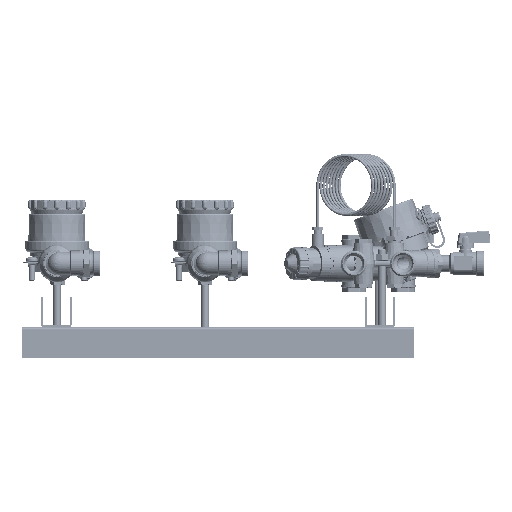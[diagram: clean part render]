
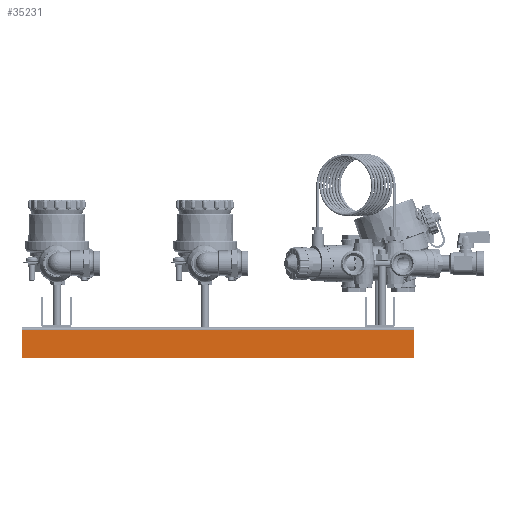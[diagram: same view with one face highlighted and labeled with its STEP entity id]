
A CAD part, front view. The second image highlights one B-rep face of the part: STEP entity #35231.
In plain terms, the highlighted planar face has unit normal (0, -1, 0) as drawn and (1, 0, 0) by its records, which use the part's own axes.
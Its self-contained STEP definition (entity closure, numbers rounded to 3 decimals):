
#35231=ADVANCED_FACE('',(#191200),#191202,.T.);
#191200=FACE_BOUND('',#191201,.T.);
#191201=EDGE_LOOP('',(#285194,#285195,#285196,#285197));
#191202=PLANE('',#191203);
#191203=AXIS2_PLACEMENT_3D('',#191204,#191205,#191206);
#191204=CARTESIAN_POINT('',(15.5,-400.,-2.5));
#191205=DIRECTION('',(1.,0.,0.));
#191206=DIRECTION('',(0.,0.,-1.));
#285194=ORIENTED_EDGE('',*,*,#333281,.T.);
#285195=ORIENTED_EDGE('',*,*,#333309,.T.);
#285196=ORIENTED_EDGE('',*,*,#333299,.F.);
#285197=ORIENTED_EDGE('',*,*,#333306,.F.);
#333281=EDGE_CURVE('',#393264,#393261,#393265,.T.);
#333299=EDGE_CURVE('',#393293,#393295,#393296,.T.);
#333306=EDGE_CURVE('',#393264,#393293,#393303,.T.);
#333309=EDGE_CURVE('',#393261,#393295,#393306,.T.);
#393261=VERTEX_POINT('',#656909);
#393264=VERTEX_POINT('',#656914);
#393265=LINE('',#656915,#656916);
#393293=VERTEX_POINT('',#656984);
#393295=VERTEX_POINT('',#656989);
#393296=LINE('',#656990,#656991);
#393303=LINE('',#657011,#657012);
#393306=LINE('',#657020,#657021);
#656909=CARTESIAN_POINT('',(15.5,-400.,-31.2));
#656914=CARTESIAN_POINT('',(15.5,-400.,-2.5));
#656915=CARTESIAN_POINT('',(15.5,-400.,-2.5));
#656916=VECTOR('',#656917,1.);
#656917=DIRECTION('',(0.,0.,-1.));
#656984=CARTESIAN_POINT('',(15.5,0.,-2.5));
#656989=CARTESIAN_POINT('',(15.5,0.,-31.2));
#656990=CARTESIAN_POINT('',(15.5,0.,-2.5));
#656991=VECTOR('',#656992,1.);
#656992=DIRECTION('',(0.,0.,-1.));
#657011=CARTESIAN_POINT('',(15.5,-400.,-2.5));
#657012=VECTOR('',#657013,1.);
#657013=DIRECTION('',(0.,1.,0.));
#657020=CARTESIAN_POINT('',(15.5,-400.,-31.2));
#657021=VECTOR('',#657022,1.);
#657022=DIRECTION('',(0.,1.,0.));
